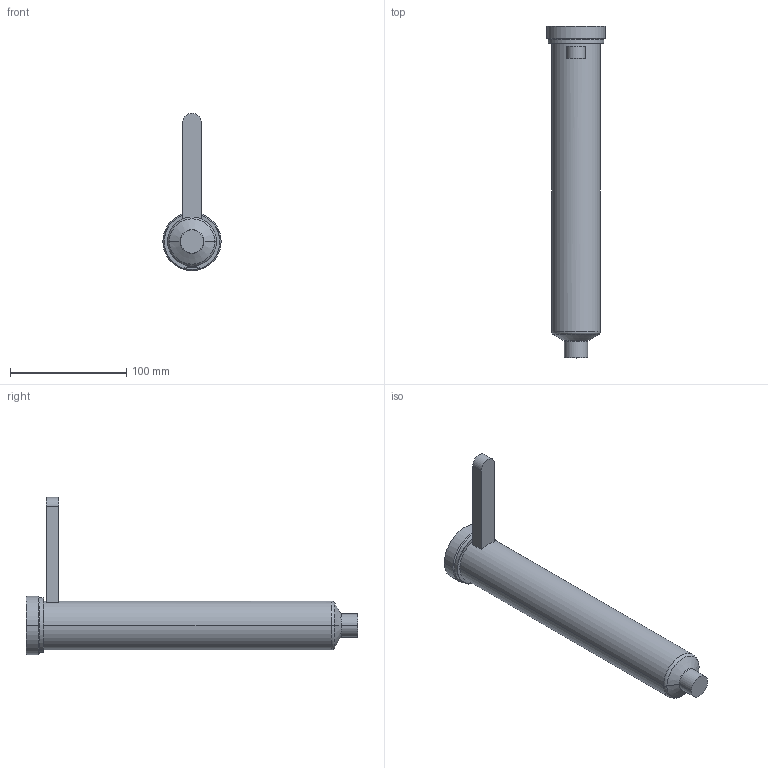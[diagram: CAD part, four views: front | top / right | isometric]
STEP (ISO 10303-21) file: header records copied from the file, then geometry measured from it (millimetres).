
FILE_DESCRIPTION((''),'2;1');
FILE_NAME('EO16_SG_ESG_260_COT','2024-02-19T12:36:25',('sundharh'),(''),'CREO PARAMETRIC BY PTC INC, 2023154','CREO PARAMETRIC BY PTC INC, 2023154','');
FILE_SCHEMA(('CONFIG_CONTROL_DESIGN'));
Length unit declared in the file: millimetre
Products named in the file (1): EO16_SG_ESG_260_COT
Bounding box: 50 x 285 x 135 mm (x, y, z)
Volume: 398002.2 mm3; surface area: 44685.7 mm2
Topology: 1 solids, 1 shells, 31 faces, 67 edges, 40 vertices
Faces by surface type: cylinder 11, plane 9, torus 7, cone 4
Entity records: 967 total; most frequent: CARTESIAN_POINT 234, DIRECTION 159, ORIENTED_EDGE 134, AXIS2_PLACEMENT_3D 67, EDGE_CURVE 67, VERTEX_POINT 40, CIRCLE 36, EDGE_LOOP 33
